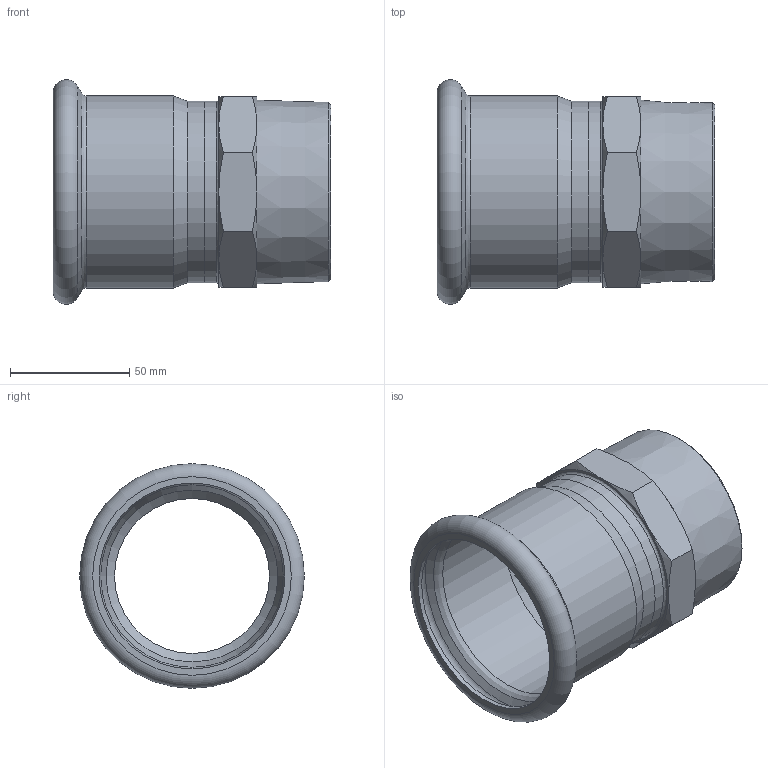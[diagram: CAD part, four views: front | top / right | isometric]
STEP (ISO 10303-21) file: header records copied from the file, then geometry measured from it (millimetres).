
FILE_DESCRIPTION((''),'2;1');
FILE_NAME('G:\Technics\CAD\Bauteile\076\69243G76212(2).stp','2008-03-10T13:57:53',('herberg'),(''),'Autodesk Inventor 2008','Autodesk Inventor 2008','');
FILE_SCHEMA(('AUTOMOTIVE_DESIGN { 1 0 10303 214 1 1 1 1 }'));
Length unit declared in the file: millimetre
Products named in the file (3): 69243G76212(2); HM_6924376(1); AG76212(1)
Assembly tree (2 placements, depth 2):
  69243G76212(2)
    HM_6924376(1)
    AG76212(1)
Bounding box: 116.5 x 94.26 x 94.26 mm (x, y, z)
Volume: 103597.7 mm3; surface area: 63728 mm2
Topology: 2 solids, 2 shells, 52 faces, 107 edges, 62 vertices
Faces by surface type: cone 23, plane 15, cylinder 6, bspline 6, torus 2
Full cylindrical faces by diameter (mm): 72.1 x1, 76.1 x2, 76.6 x1, 78 x1, 80.6 x1
Entity records: 1435 total; most frequent: CARTESIAN_POINT 446, DIRECTION 196, ORIENTED_EDGE 166, AXIS2_PLACEMENT_3D 94, EDGE_CURVE 83, EDGE_LOOP 80, VERTEX_POINT 59, FACE_OUTER_BOUND 52
